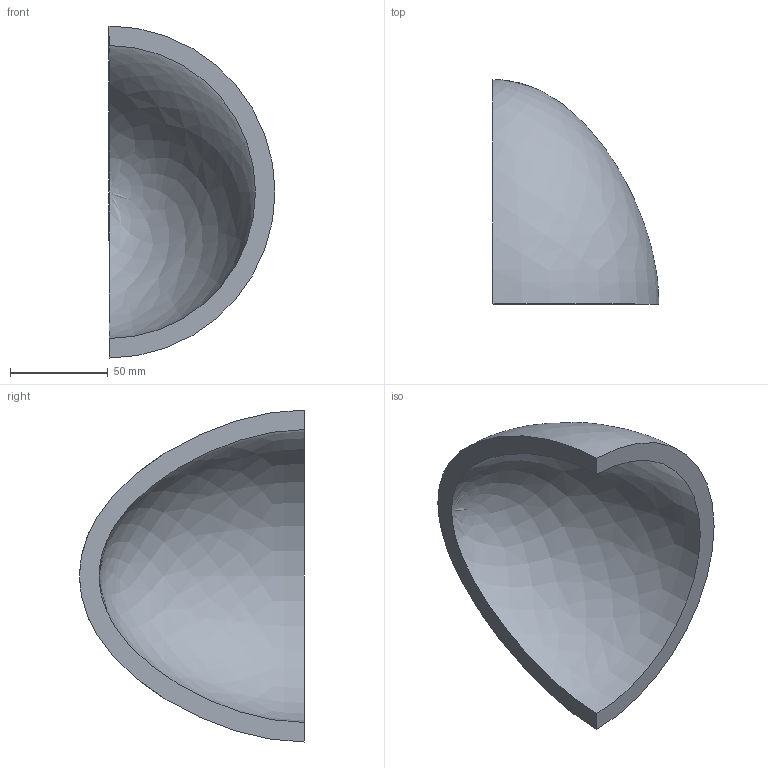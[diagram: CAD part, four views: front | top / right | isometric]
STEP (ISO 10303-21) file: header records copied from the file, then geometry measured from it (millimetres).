
FILE_DESCRIPTION(('CATIA V5 STEP Exchange'),'2;1');
FILE_NAME('C:\_Andres\UNIVERSIDAD\IQS\ASIGNATURAS\DAO\EXF\EXF-16172c\2inicio\Homs_Ruano_Ej10_v15.stp','2017-03-05T22:31:11+00:00',('none'),('none'),'CATIA Version 5-6 Release 2014 SP1 HF18','CATIA V5 STEP AP203','none');
FILE_SCHEMA(('CONFIG_CONTROL_DESIGN'));
Length unit declared in the file: millimetre
Products named in the file (1): Homs_Ruano_Ej10_v15
Bounding box: 85 x 115 x 170 mm (x, y, z)
Volume: 242843.3 mm3; surface area: 54142.3 mm2
Topology: 1 solids, 1 shells, 4 faces, 10 edges, 6 vertices
Faces by surface type: revolution 2, plane 2
Entity records: 239 total; most frequent: CARTESIAN_POINT 117, ORIENTED_EDGE 16, DIRECTION 10, EDGE_CURVE 8, B_SPLINE_CURVE_WITH_KNOTS 6, VERTEX_POINT 6, AXIS2_PLACEMENT_3D 5, ADVANCED_FACE 4
